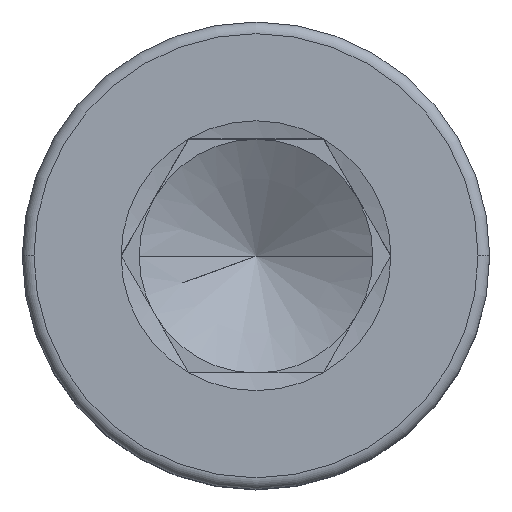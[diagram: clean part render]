
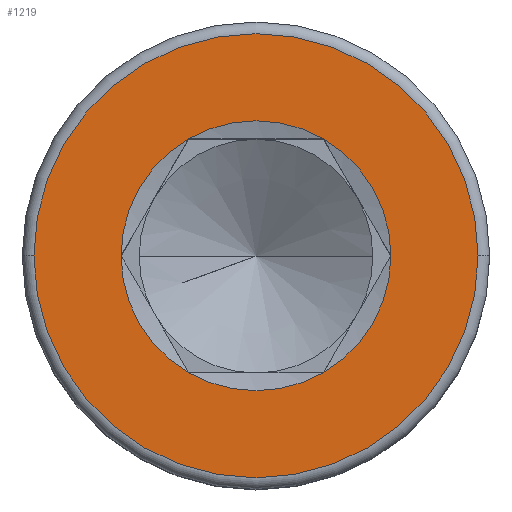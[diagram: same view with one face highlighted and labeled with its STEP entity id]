
A CAD part, top view. The second image highlights one B-rep face of the part: STEP entity #1219.
In plain terms, the highlighted planar face has unit normal (0, 0, 1).
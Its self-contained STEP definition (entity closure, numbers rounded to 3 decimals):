
#58 = CARTESIAN_POINT ( 'NONE',  ( 0., 0., 5. ) ) ;
#65 = VERTEX_POINT ( 'NONE', #1109 ) ;
#69 = EDGE_CURVE ( 'NONE', #292, #65, #307, .T. ) ;
#71 = DIRECTION ( 'NONE',  ( 0., 0., 1. ) ) ;
#130 = VERTEX_POINT ( 'NONE', #596 ) ;
#136 = EDGE_LOOP ( 'NONE', ( #753, #811 ) ) ;
#195 = CARTESIAN_POINT ( 'NONE',  ( 2.309, 0., 5. ) ) ;
#292 = VERTEX_POINT ( 'NONE', #697 ) ;
#307 = CIRCLE ( 'NONE', #1200, 2.309 ) ;
#370 = CARTESIAN_POINT ( 'NONE',  ( 0., 0., 5. ) ) ;
#376 = VERTEX_POINT ( 'NONE', #763 ) ;
#387 = DIRECTION ( 'NONE',  ( 1., 0., 0. ) ) ;
#390 = EDGE_LOOP ( 'NONE', ( #1101, #1249, #529, #859, #781, #1466 ) ) ;
#395 = AXIS2_PLACEMENT_3D ( 'NONE', #1173, #1031, #1757 ) ;
#410 = CARTESIAN_POINT ( 'NONE',  ( -2.309, 0., 5. ) ) ;
#440 = DIRECTION ( 'NONE',  ( 0., 0., 1. ) ) ;
#458 = AXIS2_PLACEMENT_3D ( 'NONE', #937, #1212, #633 ) ;
#460 = CARTESIAN_POINT ( 'NONE',  ( 0., 0., 5. ) ) ;
#465 = VERTEX_POINT ( 'NONE', #1326 ) ;
#491 = CIRCLE ( 'NONE', #458, 2.309 ) ;
#497 = EDGE_CURVE ( 'NONE', #538, #376, #1405, .T. ) ;
#506 = PLANE ( 'NONE',  #1314 ) ;
#518 = VERTEX_POINT ( 'NONE', #1822 ) ;
#529 = ORIENTED_EDGE ( 'NONE', *, *, #69, .F. ) ;
#538 = VERTEX_POINT ( 'NONE', #195 ) ;
#539 = DIRECTION ( 'NONE',  ( 1., 0., 0. ) ) ;
#579 = CIRCLE ( 'NONE', #1524, 2.309 ) ;
#596 = CARTESIAN_POINT ( 'NONE',  ( 3.8, 0., 5. ) ) ;
#633 = DIRECTION ( 'NONE',  ( 1., 0., 0. ) ) ;
#644 = DIRECTION ( 'NONE',  ( 0., 0., 1. ) ) ;
#667 = DIRECTION ( 'NONE',  ( 1., 0., 0. ) ) ;
#697 = CARTESIAN_POINT ( 'NONE',  ( -1.155, -2., 5. ) ) ;
#702 = CIRCLE ( 'NONE', #1609, 2.309 ) ;
#738 = EDGE_CURVE ( 'NONE', #465, #1018, #702, .T. ) ;
#753 = ORIENTED_EDGE ( 'NONE', *, *, #1158, .T. ) ;
#763 = CARTESIAN_POINT ( 'NONE',  ( 1.155, 2., 5. ) ) ;
#781 = ORIENTED_EDGE ( 'NONE', *, *, #738, .F. ) ;
#808 = DIRECTION ( 'NONE',  ( 0., 0., 1. ) ) ;
#811 = ORIENTED_EDGE ( 'NONE', *, *, #988, .T. ) ;
#859 = ORIENTED_EDGE ( 'NONE', *, *, #999, .F. ) ;
#907 = CIRCLE ( 'NONE', #1349, 2.309 ) ;
#910 = DIRECTION ( 'NONE',  ( 0., 0., 1. ) ) ;
#937 = CARTESIAN_POINT ( 'NONE',  ( 0., 0., 5. ) ) ;
#939 = AXIS2_PLACEMENT_3D ( 'NONE', #370, #71, #1062 ) ;
#988 = EDGE_CURVE ( 'NONE', #518, #130, #1053, .T. ) ;
#990 = DIRECTION ( 'NONE',  ( 1., 0., 0. ) ) ;
#999 = EDGE_CURVE ( 'NONE', #1018, #292, #907, .T. ) ;
#1018 = VERTEX_POINT ( 'NONE', #410 ) ;
#1031 = DIRECTION ( 'NONE',  ( 0., 0., 1. ) ) ;
#1053 = CIRCLE ( 'NONE', #939, 3.8 ) ;
#1062 = DIRECTION ( 'NONE',  ( 1., 0., 0. ) ) ;
#1081 = FACE_BOUND ( 'NONE', #390, .T. ) ;
#1101 = ORIENTED_EDGE ( 'NONE', *, *, #497, .F. ) ;
#1109 = CARTESIAN_POINT ( 'NONE',  ( 1.155, -2., 5. ) ) ;
#1141 = CARTESIAN_POINT ( 'NONE',  ( 0., 0., 5. ) ) ;
#1158 = EDGE_CURVE ( 'NONE', #130, #518, #1521, .T. ) ;
#1173 = CARTESIAN_POINT ( 'NONE',  ( 0., 0., 5. ) ) ;
#1200 = AXIS2_PLACEMENT_3D ( 'NONE', #1274, #1850, #539 ) ;
#1212 = DIRECTION ( 'NONE',  ( 0., 0., 1. ) ) ;
#1219 = ADVANCED_FACE ( 'NONE', ( #1819, #1081 ), #506, .T. ) ;
#1233 = DIRECTION ( 'NONE',  ( 1., 0., 0. ) ) ;
#1249 = ORIENTED_EDGE ( 'NONE', *, *, #1497, .F. ) ;
#1257 = CARTESIAN_POINT ( 'NONE',  ( 0., 0., 5. ) ) ;
#1274 = CARTESIAN_POINT ( 'NONE',  ( 0., 0., 5. ) ) ;
#1280 = AXIS2_PLACEMENT_3D ( 'NONE', #460, #440, #1394 ) ;
#1314 = AXIS2_PLACEMENT_3D ( 'NONE', #1665, #808, #667 ) ;
#1326 = CARTESIAN_POINT ( 'NONE',  ( -1.155, 2., 5. ) ) ;
#1349 = AXIS2_PLACEMENT_3D ( 'NONE', #1257, #910, #387 ) ;
#1394 = DIRECTION ( 'NONE',  ( 1., 0., 0. ) ) ;
#1405 = CIRCLE ( 'NONE', #1280, 2.309 ) ;
#1466 = ORIENTED_EDGE ( 'NONE', *, *, #1600, .F. ) ;
#1497 = EDGE_CURVE ( 'NONE', #65, #538, #579, .T. ) ;
#1521 = CIRCLE ( 'NONE', #395, 3.8 ) ;
#1524 = AXIS2_PLACEMENT_3D ( 'NONE', #58, #644, #1233 ) ;
#1600 = EDGE_CURVE ( 'NONE', #376, #465, #491, .T. ) ;
#1609 = AXIS2_PLACEMENT_3D ( 'NONE', #1141, #1874, #990 ) ;
#1665 = CARTESIAN_POINT ( 'NONE',  ( 0., 0., 5. ) ) ;
#1757 = DIRECTION ( 'NONE',  ( 1., 0., 0. ) ) ;
#1819 = FACE_OUTER_BOUND ( 'NONE', #136, .T. ) ;
#1822 = CARTESIAN_POINT ( 'NONE',  ( -3.8, 0., 5. ) ) ;
#1850 = DIRECTION ( 'NONE',  ( 0., 0., 1. ) ) ;
#1874 = DIRECTION ( 'NONE',  ( 0., 0., 1. ) ) ;
